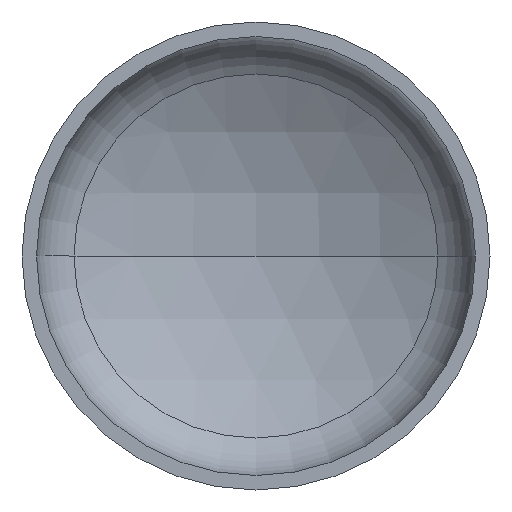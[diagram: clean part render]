
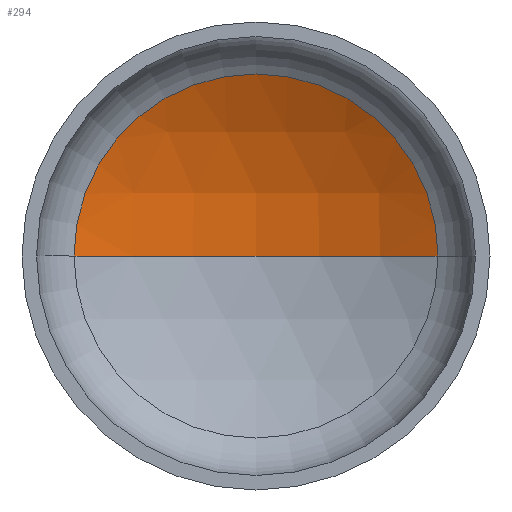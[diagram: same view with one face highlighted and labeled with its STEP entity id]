
A CAD part, front view. The second image highlights one B-rep face of the part: STEP entity #294.
In plain terms, the highlighted spherical face has radius 720 mm.
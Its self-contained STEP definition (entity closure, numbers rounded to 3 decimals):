
#10 = AXIS2_PLACEMENT_3D ( 'NONE', #308, #122, #108 ) ;
#28 = VERTEX_POINT ( 'NONE', #267 ) ;
#34 = AXIS2_PLACEMENT_3D ( 'NONE', #201, #197, #175 ) ;
#35 = AXIS2_PLACEMENT_3D ( 'NONE', #278, #275, #274 ) ;
#37 = AXIS2_PLACEMENT_3D ( 'NONE', #273, #271, #124 ) ;
#43 = EDGE_LOOP ( 'NONE', ( #166, #112, #97 ) ) ;
#68 = EDGE_CURVE ( 'NONE', #28, #180, #143, .T. ) ;
#69 = EDGE_CURVE ( 'NONE', #188, #28, #406, .T. ) ;
#70 = EDGE_CURVE ( 'NONE', #188, #180, #287, .T. ) ;
#97 = ORIENTED_EDGE ( 'NONE', *, *, #68, .T. ) ;
#108 = DIRECTION ( 'NONE',  ( -1., 0., 0. ) ) ;
#112 = ORIENTED_EDGE ( 'NONE', *, *, #69, .T. ) ;
#122 = DIRECTION ( 'NONE',  ( 0., 0., -1. ) ) ;
#124 = DIRECTION ( 'NONE',  ( 1., 0., 0. ) ) ;
#143 = CIRCLE ( 'NONE', #37, 350.069 ) ;
#166 = ORIENTED_EDGE ( 'NONE', *, *, #70, .F. ) ;
#175 = DIRECTION ( 'NONE',  ( 1., 0., 0. ) ) ;
#180 = VERTEX_POINT ( 'NONE', #252 ) ;
#188 = VERTEX_POINT ( 'NONE', #245 ) ;
#197 = DIRECTION ( 'NONE',  ( 0., 0., 1. ) ) ;
#201 = CARTESIAN_POINT ( 'NONE',  ( 0., -421.829, 0. ) ) ;
#245 = CARTESIAN_POINT ( 'NONE',  ( 0., 298.171, 0. ) ) ;
#252 = CARTESIAN_POINT ( 'NONE',  ( -350.069, 207.338, 0. ) ) ;
#261 = SPHERICAL_SURFACE ( 'NONE', #10, 720. ) ;
#267 = CARTESIAN_POINT ( 'NONE',  ( 350.069, 207.338, 0. ) ) ;
#271 = DIRECTION ( 'NONE',  ( 0., -1., 0. ) ) ;
#273 = CARTESIAN_POINT ( 'NONE',  ( 0., 207.338, 0. ) ) ;
#274 = DIRECTION ( 'NONE',  ( -1., 0., 0. ) ) ;
#275 = DIRECTION ( 'NONE',  ( 0., 0., -1. ) ) ;
#278 = CARTESIAN_POINT ( 'NONE',  ( 0., -421.829, 0. ) ) ;
#287 = CIRCLE ( 'NONE', #34, 720. ) ;
#294 = ADVANCED_FACE ( 'NONE', ( #388 ), #261, .F. ) ;
#308 = CARTESIAN_POINT ( 'NONE',  ( 0., -421.829, 0. ) ) ;
#388 = FACE_OUTER_BOUND ( 'NONE', #43, .T. ) ;
#406 = CIRCLE ( 'NONE', #35, 720. ) ;
